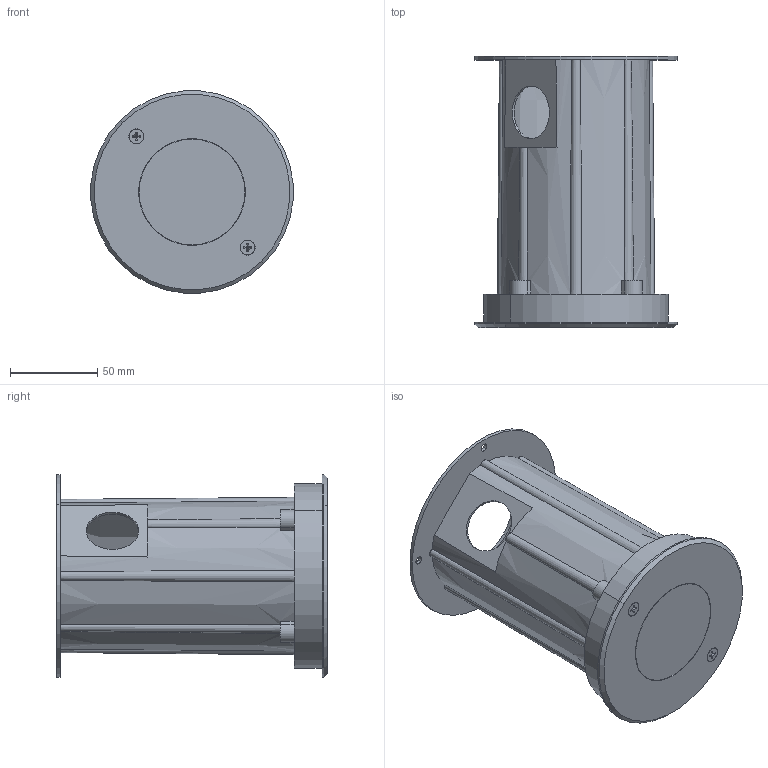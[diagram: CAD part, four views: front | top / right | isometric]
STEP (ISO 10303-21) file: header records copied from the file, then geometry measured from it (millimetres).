
FILE_DESCRIPTION((''),'2;1');
FILE_NAME('ZSB2DFR0126_ASM','2024-08-30T14:19:07',('C029'),(''),'CREO PARAMETRIC BY PTC INC, 2021063','CREO PARAMETRIC BY PTC INC, 2021063','');
FILE_SCHEMA(('CONFIG_CONTROL_DESIGN'));
Length unit declared in the file: millimetre
Products named in the file (20): 2DG-DT_15_7; 2FT-MGVENU_1_4; 2FU-BOLIVENU_1_6; TOU_JING_DI_ZOU_D34_13; TOU_JING_D50_4; TOU_JING_ZJ_D50_ASM_26_ASM; 2DF_FGB_16; 2DF_FGB_1_50; ICRFC0506_3; M4-12-BEI-TOU-LS_1_3_1; PG9_1_1_3_1; 2DH-HG_1_2_1; 2DF_HG_ZJ_ASM_1_ASM; 2DF_SHEN_JI_HUA_ASM_39_ASM; 2DF-YMT_8_1; 2DF-YMT-DG_5_3; ASM0006_ASM_1_ASM_1_ASM; 2DF0001_ASM_5_ASM; 2DF-083000_ASM; ZSB2DFR0126_ASM
Assembly tree (23 placements, depth 5):
  ZSB2DFR0126_ASM
    2DF_SHEN_JI_HUA_ASM_39_ASM
      2DG-DT_15_7
      2FT-MGVENU_1_4
      2FU-BOLIVENU_1_6
      TOU_JING_ZJ_D50_ASM_26_ASM
        TOU_JING_DI_ZOU_D34_13
        TOU_JING_D50_4
      2DF_FGB_16
      2DF_FGB_1_50
      ICRFC0506_3  x2
      2DF_HG_ZJ_ASM_1_ASM
        M4-12-BEI-TOU-LS_1_3_1  x4
        PG9_1_1_3_1
        2DH-HG_1_2_1
    2DF-083000_ASM
      2DF0001_ASM_5_ASM
        ASM0006_ASM_1_ASM_1_ASM
          2DF-YMT_8_1
          2DF-YMT-DG_5_3
Bounding box: 115.56 x 155 x 115.56 mm (x, y, z)
Volume: 353609.3 mm3; surface area: 232413.4 mm2
Topology: 17 solids, 17 shells, 1546 faces, 4194 edges, 2753 vertices
Faces by surface type: plane 771, cylinder 446, cone 123, torus 80, extrusion 66, bspline 52, sphere 8
Entity records: 53881 total; most frequent: CARTESIAN_POINT 16703, ORIENTED_EDGE 7816, DIRECTION 7560, EDGE_CURVE 3908, AXIS2_PLACEMENT_3D 2687, VERTEX_POINT 2601, VECTOR 2186, LINE 2120
